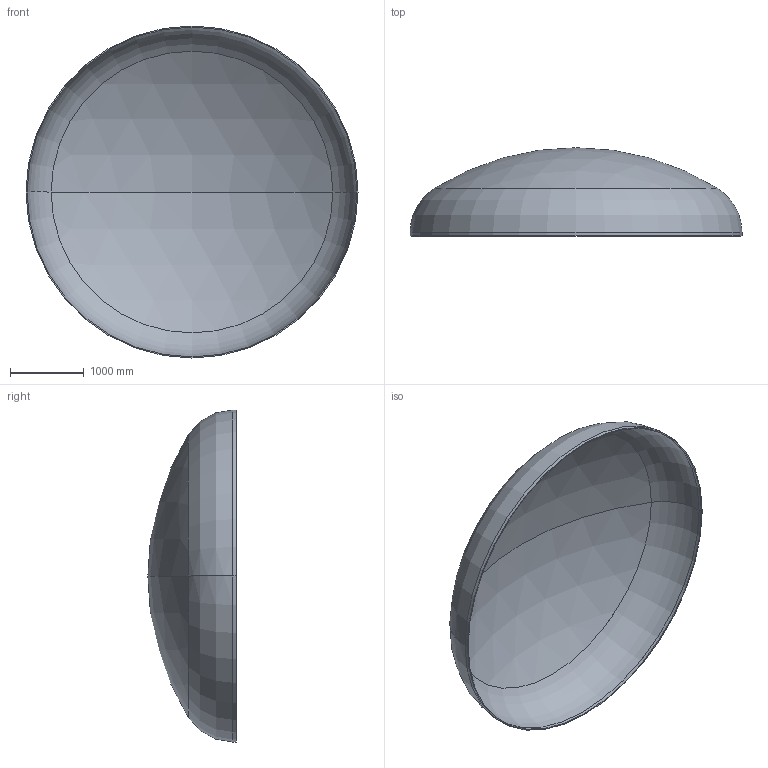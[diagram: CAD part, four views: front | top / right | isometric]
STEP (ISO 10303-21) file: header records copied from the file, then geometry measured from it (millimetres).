
FILE_DESCRIPTION (( 'STEP AP203' ), '1' );
FILE_NAME ('DIN 28013 Korbbogenform_-_Boden DIN 28013 - 4500 x 45 - I - s=14.step', '2016-07-01T23:04:23', ( '' ), ( '' ), 'SwSTEP 2.0', 'SolidWorks 2013', '' );
FILE_SCHEMA (( 'CONFIG_CONTROL_DESIGN' ));
Length unit declared in the file: millimetre
Products named in the file (1): DIN 28013 Korbbogenform_-_Boden DIN 28013 - 4500 x 45 - I - s=14
Bounding box: 4500 x 1196.41 x 4500 mm (x, y, z)
Volume: 316187427 mm3; surface area: 45367329.2 mm2
Topology: 1 solids, 1 shells, 13 faces, 24 edges, 14 vertices
Faces by surface type: torus 4, cylinder 4, sphere 4, plane 1
Entity records: 407 total; most frequent: DIRECTION 72, CARTESIAN_POINT 52, ORIENTED_EDGE 48, AXIS2_PLACEMENT_3D 34, EDGE_CURVE 24, CIRCLE 20, VERTEX_POINT 14, EDGE_LOOP 14
